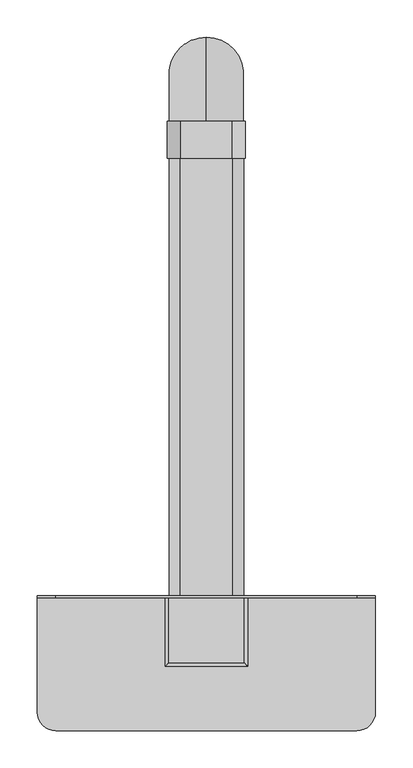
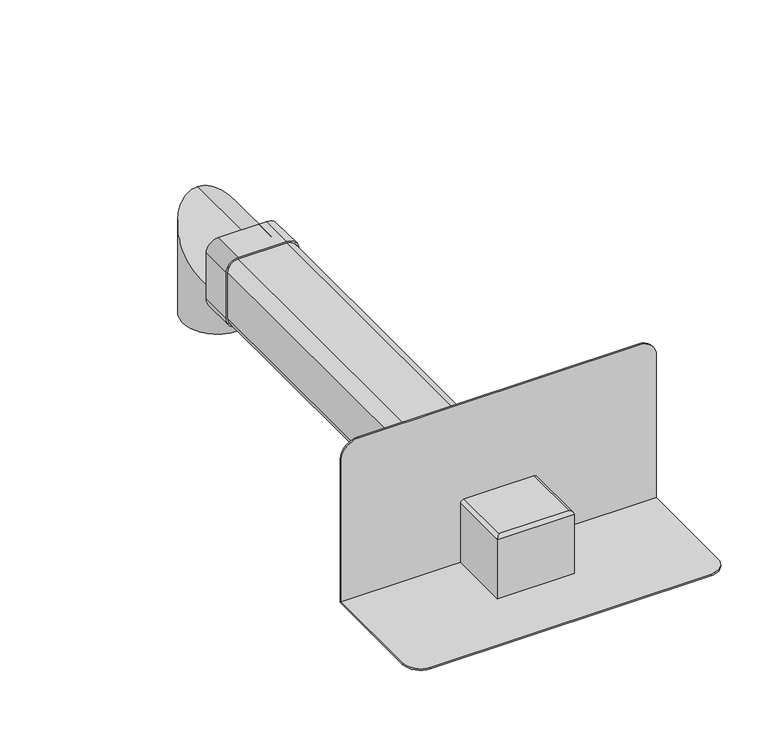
"""IFC4 building model written with IfcOpenShell, lengths in millimetres: flow terminal geometry, BIMLIB_Воронка_Парапетная_Fachmann_VC-PP : 100х100х650."""

from ifc_helpers import new_model, si_unit, point, frame, frame_2d, origin, place, context, project, spatial, polyline, circle_curve, ellipse_curve, trimmed, segment, composite_curve, outline, extrude, source, transform, mapped, element, save
from ifc_brep_helpers import plane_surface, cylinder_surface, revolved_surface, advanced_brep


def flow_terminal_029b1803(model_context):
    return source(origin(), model_context, "Body", "SolidModel", [
        advanced_brep(
        [(50.4, -702.5, 97.5), (-50.4, -702.5, 97.5), (-50.4, -789.4, 97.5), (50.4, -789.4, 97.5), (55.4, -702.5, 2.5), (55.4, -794.4, 2.5), (-55.4, -794.4, 2.5), (-55.4, -702.5, 2.5), (-55.4, -702.5, 92.5), (55.4, -702.5, 92.5), (-55.4, -794.4, 92.5), (55.4, -794.4, 92.5)],
        [
            (0, 1),
            (1, 2),
            (2, 3),
            (3, 0),
            (4, 5),
            (5, 6),
            (6, 7),
            (7, 4),
            (7, 8),
            (8, 1, circle_curve(frame((-50.4, -702.5, 92.5), z_axis=(0.0, 1.0, 0.0), x_axis=(1.0, 0.0, 0.0)), 5.0)),
            (0, 9, circle_curve(frame((50.4, -702.5, 92.5), z_axis=(0.0, 1.0, 0.0), x_axis=(-1.0, 0.0, 0.0)), 5.0)),
            (9, 4),
            (6, 10),
            (10, 8),
            (5, 11),
            (11, 10),
            (9, 11),
            (10, 2, ellipse_curve(frame((-50.4, -789.4, 92.5), z_axis=(-0.7071067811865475, 0.7071067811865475, 0.0), x_axis=(-0.7071067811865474, -0.7071067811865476, 0.0)), 7.0710678, 5.0)),
            (11, 3, ellipse_curve(frame((50.4, -789.4, 92.5), z_axis=(-0.7071067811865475, -0.7071067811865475, 0.0), x_axis=(0.7071067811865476, -0.7071067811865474, 0.0)), 7.0710678, 5.0)),
        ],
        [
            plane_surface(frame((-55.4, -702.5, 97.5), z_axis=(0.0, 0.0, 1.0), x_axis=(-1.0, 0.0, 0.0))),
            plane_surface(frame((-55.4, -702.5, 2.5), z_axis=(0.0, 0.0, -1.0), x_axis=(1.0, 0.0, 0.0))),
            plane_surface(frame((55.4, -702.5, 97.5), z_axis=(0.0, 1.0, 0.0), x_axis=(0.0, 0.0, -1.0))),
            plane_surface(frame((-55.4, -702.5, 97.5), z_axis=(-1.0, 0.0, 0.0), x_axis=(0.0, 0.0, -1.0))),
            plane_surface(frame((-55.4, -794.4, 97.5), z_axis=(0.0, -1.0, 0.0), x_axis=(0.0, 0.0, -1.0))),
            plane_surface(frame((55.4, -794.4, 97.5), z_axis=(1.0, 0.0, 0.0), x_axis=(0.0, 0.0, -1.0))),
            cylinder_surface(frame((-50.4, -702.5, 92.5), z_axis=(0.0, -1.0, 0.0), x_axis=(1.0, 0.0, 0.0)), 5.0),
            cylinder_surface(frame((-55.4, -789.4, 92.5), z_axis=(1.0, 0.0, 0.0), x_axis=(0.0, 1.0, 0.0)), 5.0),
            cylinder_surface(frame((50.4, -794.4, 92.5), z_axis=(0.0, 1.0, 0.0), x_axis=(-1.0, 0.0, 0.0)), 5.0),
        ],
        [
            (0, [[1, 2, 3, 4]]),
            (1, [[5, 6, 7, 8]]),
            (2, [[-8, 9, 10, -1, 11, 12]]),
            (3, [[-7, 13, 14, -9]]),
            (4, [[-6, 15, 16, -13]]),
            (5, [[-5, -12, 17, -15]]),
            (6, [[18, -2, -10, -14]]),
            (7, [[-18, -16, 19, -3]]),
            (8, [[-19, -17, -11, -4]]),
        ],
    ),
        advanced_brep(
        [(35.0, -112.5, 102.5), (-35.0, -112.5, 102.5), (-52.5, -112.5, 85.0), (-52.5, -112.5, 15.0), (-35.0, -112.5, -2.5), (35.0, -112.5, -2.5), (52.5, -112.5, 15.0), (52.5, -112.5, 85.0), (-50.0, -112.5, 85.0), (-35.0, -112.5, 100.0), (35.0, -112.5, 100.0), (50.0, -112.5, 85.0), (50.0, -112.5, 15.0), (35.0, -112.5, 0.0), (-35.0, -112.5, 0.0), (-50.0, -112.5, 15.0), (35.0, -62.5, 102.5), (52.5, -62.5, 85.0), (52.5, -62.5, 15.0), (35.0, -62.5, -2.5), (-35.0, -62.5, -2.5), (-52.5, -62.5, 15.0), (-52.5, -62.5, 85.0), (-35.0, -62.5, 102.5), (-50.0, -62.5, 15.0), (-35.0, -62.5, 0.0), (0.0, -62.5, 0.0), (35.0, -62.5, 0.0), (50.0, -62.5, 15.0), (50.0, -62.5, 50.0), (50.0, -62.5, 85.0), (35.0, -62.5, 100.0), (0.0, -62.5, 100.0), (-35.0, -62.5, 100.0), (-50.0, -62.5, 85.0), (-50.0, -62.5, 50.0)],
        [
            (0, 1),
            (1, 2, circle_curve(frame((-35.0, -112.5, 85.0), z_axis=(0.0, -1.0, 0.0), x_axis=(0.0, 0.0, 1.0)), 17.5)),
            (2, 3),
            (3, 4, circle_curve(frame((-35.0, -112.5, 15.0), z_axis=(0.0, -1.0, 0.0), x_axis=(0.0, 0.0, 1.0)), 17.5)),
            (4, 5),
            (5, 6, circle_curve(frame((35.0, -112.5, 15.0), z_axis=(0.0, -1.0, 0.0), x_axis=(0.0, 0.0, 1.0)), 17.5)),
            (6, 7),
            (7, 0, circle_curve(frame((35.0, -112.5, 85.0), z_axis=(0.0, -1.0, 0.0), x_axis=(0.0, 0.0, 1.0)), 17.5)),
            (8, 9, circle_curve(frame((-35.0, -112.5, 85.0), z_axis=(0.0, 1.0, 0.0), x_axis=(0.0, 0.0, 1.0)), 15.0)),
            (9, 10),
            (10, 11, circle_curve(frame((35.0, -112.5, 85.0), z_axis=(0.0, 1.0, 0.0), x_axis=(0.0, 0.0, 1.0)), 15.0)),
            (11, 12),
            (12, 13, circle_curve(frame((35.0, -112.5, 15.0), z_axis=(0.0, 1.0, 0.0), x_axis=(0.0, 0.0, 1.0)), 15.0)),
            (13, 14),
            (14, 15, circle_curve(frame((-35.0, -112.5, 15.0), z_axis=(0.0, 1.0, 0.0), x_axis=(0.0, 0.0, 1.0)), 15.0)),
            (15, 8),
            (16, 17, circle_curve(frame((35.0, -62.5, 85.0), z_axis=(0.0, 1.0, 0.0), x_axis=(0.0, 0.0, 1.0)), 17.5)),
            (17, 18),
            (18, 19, circle_curve(frame((35.0, -62.5, 15.0), z_axis=(0.0, 1.0, 0.0), x_axis=(0.0, 0.0, 1.0)), 17.5)),
            (19, 20),
            (20, 21, circle_curve(frame((-35.0, -62.5, 15.0), z_axis=(0.0, 1.0, 0.0), x_axis=(0.0, 0.0, 1.0)), 17.5)),
            (21, 22),
            (22, 23, circle_curve(frame((-35.0, -62.5, 85.0), z_axis=(0.0, 1.0, 0.0), x_axis=(0.0, 0.0, 1.0)), 17.5)),
            (23, 16),
            (24, 25, circle_curve(frame((-35.0, -62.5, 15.0), z_axis=(0.0, -1.0, 0.0), x_axis=(0.0, 0.0, 1.0)), 15.0)),
            (25, 26),
            (26, 27),
            (27, 28, circle_curve(frame((35.0, -62.5, 15.0), z_axis=(0.0, -1.0, 0.0), x_axis=(0.0, 0.0, 1.0)), 15.0)),
            (28, 29),
            (29, 30),
            (30, 31, circle_curve(frame((35.0, -62.5, 85.0), z_axis=(0.0, -1.0, 0.0), x_axis=(0.0, 0.0, 1.0)), 15.0)),
            (31, 32),
            (32, 33),
            (33, 34, circle_curve(frame((-35.0, -62.5, 85.0), z_axis=(0.0, -1.0, 0.0), x_axis=(0.0, 0.0, 1.0)), 15.0)),
            (34, 35),
            (35, 24),
            (15, 24),
            (34, 8),
            (14, 25),
            (13, 27),
            (12, 28),
            (11, 30),
            (10, 31),
            (9, 33),
            (7, 17),
            (16, 0),
            (6, 18),
            (5, 19),
            (4, 20),
            (3, 21),
            (2, 22),
            (1, 23),
        ],
        [
            plane_surface(frame((-50.0, -112.5, 15.0), z_axis=(0.0, -1.0, 0.0), x_axis=(0.0, 0.0, 1.0))),
            plane_surface(frame((-50.0, -62.5, 15.0), z_axis=(0.0, 1.0, 0.0), x_axis=(0.0, 0.0, -1.0))),
            plane_surface(frame((-50.0, -62.5, 85.0), z_axis=(1.0, 0.0, 0.0), x_axis=(0.0, -1.0, 0.0))),
            revolved_surface(polyline([(-35.0, -112.5, 30.0), (-35.0, -62.5, 30.0)]), (-35.0, -112.5, 15.0), (0.0, -1.0, 0.0)),
            plane_surface(frame((-35.0, -62.5, 0.0), z_axis=(0.0, 0.0, 1.0), x_axis=(0.0, -1.0, 0.0))),
            revolved_surface(polyline([(35.0, -112.5, 30.0), (35.0, -62.5, 30.0)]), (35.0, -112.5, 15.0), (0.0, -1.0, 0.0)),
            plane_surface(frame((50.0, -62.5, 15.0), z_axis=(-1.0, 0.0, 0.0), x_axis=(0.0, -1.0, 0.0))),
            revolved_surface(polyline([(35.0, -112.5, 100.0), (35.0, -62.5, 100.0)]), (35.0, -112.5, 85.0), (0.0, -1.0, 0.0)),
            plane_surface(frame((35.0, -62.5, 100.0), z_axis=(0.0, 0.0, -1.0), x_axis=(0.0, -1.0, 0.0))),
            revolved_surface(polyline([(-35.0, -112.5, 100.0), (-35.0, -62.5, 100.0)]), (-35.0, -112.5, 85.0), (0.0, -1.0, 0.0)),
            cylinder_surface(frame((35.0, -62.5, 85.0), z_axis=(0.0, 1.0, 0.0), x_axis=(0.0, 0.0, 1.0)), 17.5),
            plane_surface(frame((52.5, -62.5, 85.0), z_axis=(1.0, 0.0, 0.0), x_axis=(0.0, -1.0, 0.0))),
            cylinder_surface(frame((35.0, -62.5, 15.0), z_axis=(0.0, 1.0, 0.0), x_axis=(0.0, 0.0, 1.0)), 17.5),
            plane_surface(frame((35.0, -62.5, -2.5), z_axis=(0.0, 0.0, -1.0), x_axis=(0.0, -1.0, 0.0))),
            cylinder_surface(frame((-35.0, -62.5, 15.0), z_axis=(0.0, 1.0, 0.0), x_axis=(0.0, 0.0, 1.0)), 17.5),
            plane_surface(frame((-52.5, -62.5, 15.0), z_axis=(-1.0, 0.0, 0.0), x_axis=(0.0, -1.0, 0.0))),
            cylinder_surface(frame((-35.0, -62.5, 85.0), z_axis=(0.0, 1.0, 0.0), x_axis=(0.0, 0.0, 1.0)), 17.5),
            plane_surface(frame((-35.0, -62.5, 102.5), z_axis=(0.0, 0.0, 1.0), x_axis=(0.0, -1.0, 0.0))),
        ],
        [
            (0, [[1, 2, 3, 4, 5, 6, 7, 8], [9, 10, 11, 12, 13, 14, 15, 16]]),
            (1, [[17, 18, 19, 20, 21, 22, 23, 24], [25, 26, 27, 28, 29, 30, 31, 32, 33, 34, 35, 36]]),
            (2, [[-16, 37, -36, -35, 38]]),
            (3, [[-15, 39, -25, -37]]),
            (4, [[-14, 40, -27, -26, -39]]),
            (5, [[-13, 41, -28, -40]]),
            (6, [[-12, 42, -30, -29, -41]]),
            (7, [[-11, 43, -31, -42]]),
            (8, [[-10, 44, -33, -32, -43]]),
            (9, [[-9, -38, -34, -44]]),
            (10, [[-8, 45, -17, 46]]),
            (11, [[-7, 47, -18, -45]]),
            (12, [[-6, 48, -19, -47]]),
            (13, [[-5, 49, -20, -48]]),
            (14, [[-4, 50, -21, -49]]),
            (15, [[-3, 51, -22, -50]]),
            (16, [[-2, 52, -23, -51]]),
            (17, [[-1, -46, -24, -52]]),
        ],
    ),
        advanced_brep(
        [(0.0, -62.5, 100.0), (-50.0, -62.5, 50.0), (0.0, -62.5, 0.0), (50.0, -62.5, 50.0), (0.0, -50.0, 0.0), (0.0, 50.0, 100.0), (0.0, -50.0, -60.0), (0.0, 50.0, -60.0)],
        [
            (0, 1, circle_curve(frame((0.0, -62.5, 50.0), z_axis=(0.0, -1.0, 0.0), x_axis=(0.0, 0.0, 1.0)), 50.0)),
            (1, 2, circle_curve(frame((0.0, -62.5, 50.0), z_axis=(0.0, -1.0, 0.0), x_axis=(0.0, 0.0, 1.0)), 50.0)),
            (2, 3, circle_curve(frame((0.0, -62.5, 50.0), z_axis=(0.0, -1.0, 0.0), x_axis=(0.0, 0.0, 1.0)), 50.0)),
            (3, 0, circle_curve(frame((0.0, -62.5, 50.0), z_axis=(0.0, -1.0, 0.0), x_axis=(0.0, 0.0, 1.0)), 50.0)),
            (2, 4),
            (4, 5, ellipse_curve(frame((0.0, 0.0, 50.0), z_axis=(0.0, -0.7071067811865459, 0.7071067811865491), x_axis=(0.0, -0.7071067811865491, -0.7071067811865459)), 70.7106781, 50.0)),
            (5, 0),
            (5, 4, ellipse_curve(frame((0.0, 0.0, 50.0), z_axis=(0.0, -0.7071067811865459, 0.7071067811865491), x_axis=(0.0, -0.7071067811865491, -0.7071067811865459)), 70.7106781, 50.0)),
            (6, 7, circle_curve(frame((0.0, 0.0, -60.0), z_axis=(0.0, 0.0, -1.0), x_axis=(0.0, 1.0, 0.0)), 50.0)),
            (7, 6, circle_curve(frame((0.0, 0.0, -60.0), z_axis=(0.0, 0.0, -1.0), x_axis=(0.0, 1.0, 0.0)), 50.0)),
            (4, 6),
            (7, 5),
        ],
        [
            plane_surface(frame((0.0, -62.5, 50.0), z_axis=(0.0, -1.0, 0.0), x_axis=(1.0, 0.0, 0.0))),
            cylinder_surface(frame((0.0, -62.5, 50.0), z_axis=(0.0, -1.0, 0.0), x_axis=(0.0, 0.0, 1.0)), 50.0),
            plane_surface(frame((0.0, 0.0, -60.0), z_axis=(0.0, 0.0, -1.0), x_axis=(1.0, 0.0, 0.0))),
            cylinder_surface(frame((0.0, 0.0, 50.0), z_axis=(0.0, 0.0, 1.0), x_axis=(0.0, 1.0, 0.0)), 50.0),
        ],
        [
            (0, [[1, 2, 3, 4]]),
            (1, [[5, 6, 7, -4, -3]]),
            (1, [[-5, -2, -1, -7, 8]]),
            (2, [[9, 10]]),
            (3, [[-6, 11, -10, 12]]),
            (3, [[-8, -12, -9, -11]]),
        ],
    ),
        extrude(outline(composite_curve([segment(polyline([(100.0, 35.0), (100.0, -35.0)]), True, "CONTINUOUS"), segment(trimmed(circle_curve(frame_2d((85.0, -35.0)), 15.0), [point((100.0, -35.0))], [point((85.0, -50.0))], False, "CARTESIAN"), True, "CONTINUOUS"), segment(polyline([(85.0, -50.0), (15.0, -50.0)]), True, "CONTINUOUS"), segment(trimmed(circle_curve(frame_2d((15.0, -35.0)), 15.0), [point((15.0, -50.0))], [point((0.0, -35.0))], False, "CARTESIAN"), True, "CONTINUOUS"), segment(polyline([(0.0, -35.0), (0.0, 35.0)]), True, "CONTINUOUS"), segment(trimmed(circle_curve(frame_2d((15.0, 35.0)), 15.0), [point((0.0, 35.0))], [point((15.0, 50.0))], False, "CARTESIAN"), True, "CONTINUOUS"), segment(polyline([(15.0, 50.0), (85.0, 50.0)]), True, "CONTINUOUS"), segment(trimmed(circle_curve(frame_2d((85.0, 35.0)), 15.0), [point((85.0, 50.0))], [point((100.0, 35.0))], False, "CARTESIAN"), True, "CONTINUOUS")], self_intersect=False)), frame((0.0, -700.0, 0.0), z_axis=(0.0, 1.0, 0.0), x_axis=(0.0, 0.0, 1.0)), (0.0, 0.0, 1.0), 600.0),
        advanced_brep(
        [(-227.0, -856.0, 2.5), (-202.0, -881.0, 2.5), (202.0, -881.0, 2.5), (227.0, -856.0, 2.5), (227.0, -702.5, 2.5), (-227.0, -702.5, 2.5), (227.0, -700.0, 0.0), (227.0, -856.0, 0.0), (202.0, -881.0, 0.0), (-202.0, -881.0, 0.0), (-227.0, -856.0, 0.0), (-227.0, -700.0, 0.0), (-227.0, -700.0, 219.0), (-202.0, -700.0, 244.0), (202.0, -700.0, 244.0), (227.0, -700.0, 219.0), (-227.0, -702.5, 219.0), (227.0, -702.5, 219.0), (202.0, -702.5, 244.0), (-202.0, -702.5, 244.0)],
        [
            (0, 1, circle_curve(frame((-202.0, -856.0, 2.5), z_axis=(0.0, 0.0, 1.0), x_axis=(1.0, 0.0, 0.0)), 25.0)),
            (1, 2),
            (2, 3, circle_curve(frame((202.0, -856.0, 2.5), z_axis=(0.0, 0.0, 1.0), x_axis=(1.0, 0.0, 0.0)), 25.0)),
            (3, 4),
            (4, 5),
            (5, 0),
            (6, 7),
            (7, 8, circle_curve(frame((202.0, -856.0, 0.0), z_axis=(0.0, 0.0, -1.0), x_axis=(1.0, 0.0, 0.0)), 25.0)),
            (8, 9),
            (9, 10, circle_curve(frame((-202.0, -856.0, 0.0), z_axis=(0.0, 0.0, -1.0), x_axis=(1.0, 0.0, 0.0)), 25.0)),
            (10, 11),
            (11, 6),
            (11, 12),
            (12, 13, circle_curve(frame((-202.0, -700.0, 219.0), z_axis=(0.0, 1.0, 0.0), x_axis=(1.0, 0.0, 0.0)), 25.0)),
            (13, 14),
            (14, 15, circle_curve(frame((202.0, -700.0, 219.0), z_axis=(0.0, 1.0, 0.0), x_axis=(1.0, 0.0, 0.0)), 25.0)),
            (15, 6),
            (10, 0),
            (5, 16),
            (16, 12),
            (9, 1),
            (8, 2),
            (7, 3),
            (15, 17),
            (17, 4),
            (18, 19),
            (19, 16, circle_curve(frame((-202.0, -702.5, 219.0), z_axis=(0.0, -1.0, 0.0), x_axis=(1.0, 0.0, 0.0)), 25.0)),
            (17, 18, circle_curve(frame((202.0, -702.5, 219.0), z_axis=(0.0, -1.0, 0.0), x_axis=(1.0, 0.0, 0.0)), 25.0)),
            (18, 14),
            (13, 19),
        ],
        [
            plane_surface(frame((-227.0, -700.0, 2.5), z_axis=(0.0, 0.0, 1.0), x_axis=(-1.0, 0.0, 0.0))),
            plane_surface(frame((-227.0, -700.0, 0.0), z_axis=(0.0, 0.0, -1.0), x_axis=(1.0, 0.0, 0.0))),
            plane_surface(frame((227.0, -700.0, 2.5), z_axis=(0.0, 1.0, 0.0), x_axis=(0.0, 0.0, -1.0))),
            plane_surface(frame((-227.0, -700.0, 2.5), z_axis=(-1.0, 0.0, 0.0), x_axis=(0.0, 0.0, -1.0))),
            cylinder_surface(frame((-202.0, -856.0, 0.0), z_axis=(0.0, 0.0, 1.0), x_axis=(1.0, 0.0, 0.0)), 25.0),
            plane_surface(frame((-202.0, -881.0, 2.5), z_axis=(0.0, -1.0, 0.0), x_axis=(0.0, 0.0, -1.0))),
            cylinder_surface(frame((202.0, -856.0, 0.0), z_axis=(0.0, 0.0, 1.0), x_axis=(1.0, 0.0, 0.0)), 25.0),
            plane_surface(frame((227.0, -856.0, 2.5), z_axis=(1.0, 0.0, 0.0), x_axis=(0.0, 0.0, -1.0))),
            plane_surface(frame((-202.0, -702.5, 244.0), z_axis=(0.0, -1.0, 0.0), x_axis=(-1.0, 0.0, 0.0))),
            plane_surface(frame((202.0, -702.5, 244.0), z_axis=(0.0, 0.0, 1.0), x_axis=(0.0, 1.0, 0.0))),
            cylinder_surface(frame((-202.0, -700.0, 219.0), z_axis=(0.0, -1.0, 0.0), x_axis=(1.0, 0.0, 0.0)), 25.0),
            cylinder_surface(frame((202.0, -700.0, 219.0), z_axis=(0.0, -1.0, 0.0), x_axis=(1.0, 0.0, 0.0)), 25.0),
        ],
        [
            (0, [[1, 2, 3, 4, 5, 6]]),
            (1, [[7, 8, 9, 10, 11, 12]]),
            (2, [[-12, 13, 14, 15, 16, 17]]),
            (3, [[-11, 18, -6, 19, 20, -13]]),
            (4, [[-1, -18, -10, 21]]),
            (5, [[-2, -21, -9, 22]]),
            (6, [[-3, -22, -8, 23]]),
            (7, [[-7, -17, 24, 25, -4, -23]]),
            (8, [[26, 27, -19, -5, -25, 28]]),
            (9, [[-26, 29, -15, 30]]),
            (10, [[-27, -30, -14, -20]]),
            (11, [[-28, -24, -16, -29]]),
        ],
    ),
    ])


if __name__ == "__main__":
    model = new_model("IFC4")
    model_context = context("Model", 3, world=origin())
    ifc_project = project(units=[si_unit("LENGTHUNIT", "METRE", prefix="MILLI")], contexts=[model_context])
    site = spatial("IfcSite", under=ifc_project)
    building = spatial("IfcBuilding", under=site)
    placement = place(None, origin())
    flow_terminal_shape = flow_terminal_029b1803(model_context)
    element("IfcFlowTerminal", 1, ObjectType="BIMLIB_Воронка_Парапетная_Fachmann_VC-PP : 100х100х650", at=placement, inside=building, context=model_context, shape_type="MappedRepresentation", body=[
        mapped(flow_terminal_shape, transform((0.0, 0.0, 0.0), x_axis=(1.0, 0.0, 0.0), y_axis=(0.0, 1.0, 0.0), z_axis=(0.0, 0.0, 1.0))),
    ])
    save(model, "model.ifc")
